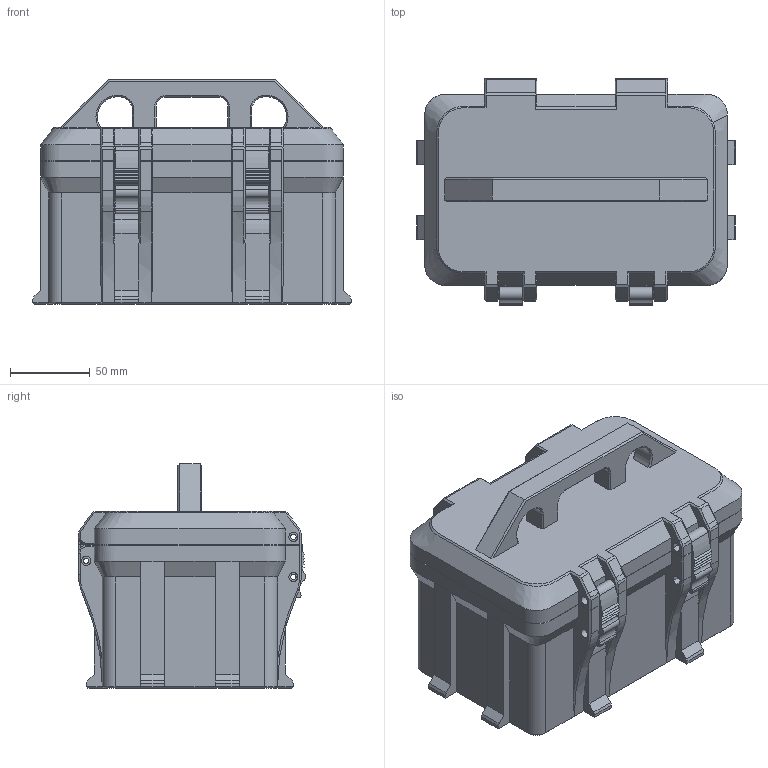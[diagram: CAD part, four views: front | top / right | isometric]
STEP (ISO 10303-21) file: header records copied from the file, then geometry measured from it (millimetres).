
FILE_DESCRIPTION(/* description */ (''),/* implementation_level */ '2;1');
FILE_NAME(/* name */ '/Users/tonysimonovski/Downloads/STL''S:GCODES:3MF''S/Esky/Water Resistant, Dust Proof Utility Box.step',/* time_stamp */ '2022-02-25T06:55:46+08:00',/* author */ (''),/* organization */ (''),/* preprocessor_version */ 'ST-DEVELOPER v18.1',/* originating_system */ 'Autodesk Translation Framework v10.13.0.1454',/* authorisation */ '');
FILE_SCHEMA (('AUTOMOTIVE_DESIGN { 1 0 10303 214 3 1 1 }'));
Length unit declared in the file: millimetre
Products named in the file (11): Water Resistant, Dust Proof Utility Box; Bottom; Lid; Latches; Divider Insert; Middle Divider; Dividers; Top Tray; Top Tray Divider; Seal; Handle
Assembly tree (10 placements, depth 2):
  Water Resistant, Dust Proof Utility Box
    Bottom
    Lid
    Latches
    Divider Insert
    Middle Divider
    Dividers
    Top Tray
    Top Tray Divider
    Seal
    Handle
Bounding box: 200 x 142.61 x 141.2 mm (x, y, z)
Volume: 1040199.5 mm3; surface area: 399573.2 mm2
Topology: 12 solids, 12 shells, 854 faces, 2168 edges, 1350 vertices
Faces by surface type: plane 500, cylinder 210, torus 48, cone 44, bspline 40, sphere 12
Full cylindrical faces by diameter (mm): 2.7 x2, 3.3 x18, 5.7 x6
Entity records: 28490 total; most frequent: CARTESIAN_POINT 7599, ORIENTED_EDGE 4328, DIRECTION 4205, EDGE_CURVE 2164, LINE 1479, VECTOR 1479, AXIS2_PLACEMENT_3D 1363, VERTEX_POINT 1350
